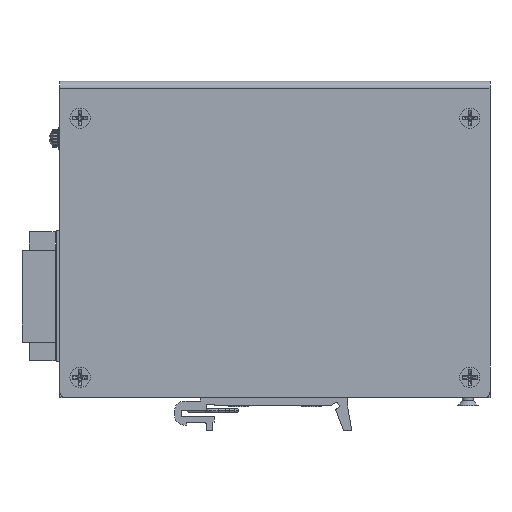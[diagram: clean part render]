
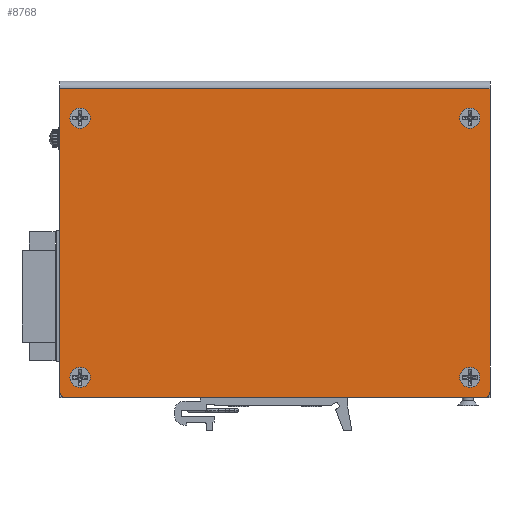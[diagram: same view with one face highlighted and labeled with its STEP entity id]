
A CAD part, front view. The second image highlights one B-rep face of the part: STEP entity #8768.
In plain terms, the highlighted planar face has unit normal (0, -1, 0) as drawn and (0, 0, 1) by its records, which use the part's own axes.
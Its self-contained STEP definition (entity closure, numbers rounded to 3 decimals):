
#6091=DIRECTION('',(0.,-1.,0.));
#6092=VECTOR('',#6091,82.5);
#6093=CARTESIAN_POINT('',(-58.5,-0.5,14.8));
#6094=LINE('',#6093,#6092);
#6712=DIRECTION('',(0.,-1.,0.));
#6713=VECTOR('',#6712,82.5);
#6714=CARTESIAN_POINT('',(58.5,-0.5,14.8));
#6715=LINE('',#6714,#6713);
#6719=CARTESIAN_POINT('',(57.,-83.,14.8));
#6720=DIRECTION('',(0.,0.,-1.));
#6721=DIRECTION('',(1.,0.,0.));
#6722=AXIS2_PLACEMENT_3D('',#6719,#6720,#6721);
#6727=CARTESIAN_POINT('',(-57.,-83.,14.8));
#6728=DIRECTION('',(0.,0.,-1.));
#6729=DIRECTION('',(0.,-1.,0.));
#6730=AXIS2_PLACEMENT_3D('',#6727,#6728,#6729);
#6735=CARTESIAN_POINT('',(-53.,-79.,14.8));
#6736=DIRECTION('',(0.,0.,1.));
#6737=DIRECTION('',(-1.,0.,0.));
#6738=AXIS2_PLACEMENT_3D('',#6735,#6736,#6737);
#6743=CARTESIAN_POINT('',(-53.,-79.,14.8));
#6744=DIRECTION('',(0.,0.,1.));
#6745=DIRECTION('',(0.,-1.,0.));
#6746=AXIS2_PLACEMENT_3D('',#6743,#6744,#6745);
#6751=CARTESIAN_POINT('',(-53.,-79.,14.8));
#6752=DIRECTION('',(0.,0.,1.));
#6753=DIRECTION('',(1.,0.,0.));
#6754=AXIS2_PLACEMENT_3D('',#6751,#6752,#6753);
#6759=CARTESIAN_POINT('',(-53.,-79.,14.8));
#6760=DIRECTION('',(0.,0.,1.));
#6761=DIRECTION('',(0.,1.,0.));
#6762=AXIS2_PLACEMENT_3D('',#6759,#6760,#6761);
#6767=CARTESIAN_POINT('',(53.,-8.5,14.8));
#6768=DIRECTION('',(0.,0.,1.));
#6769=DIRECTION('',(-1.,0.,0.));
#6770=AXIS2_PLACEMENT_3D('',#6767,#6768,#6769);
#6775=CARTESIAN_POINT('',(53.,-8.5,14.8));
#6776=DIRECTION('',(0.,0.,1.));
#6777=DIRECTION('',(0.,-1.,0.));
#6778=AXIS2_PLACEMENT_3D('',#6775,#6776,#6777);
#6783=CARTESIAN_POINT('',(53.,-8.5,14.8));
#6784=DIRECTION('',(0.,0.,1.));
#6785=DIRECTION('',(1.,0.,0.));
#6786=AXIS2_PLACEMENT_3D('',#6783,#6784,#6785);
#6791=CARTESIAN_POINT('',(53.,-8.5,14.8));
#6792=DIRECTION('',(0.,0.,1.));
#6793=DIRECTION('',(0.,1.,0.));
#6794=AXIS2_PLACEMENT_3D('',#6791,#6792,#6793);
#6799=CARTESIAN_POINT('',(-53.,-8.5,14.8));
#6800=DIRECTION('',(0.,0.,1.));
#6801=DIRECTION('',(-1.,0.,0.));
#6802=AXIS2_PLACEMENT_3D('',#6799,#6800,#6801);
#6807=CARTESIAN_POINT('',(-53.,-8.5,14.8));
#6808=DIRECTION('',(0.,0.,1.));
#6809=DIRECTION('',(0.,-1.,0.));
#6810=AXIS2_PLACEMENT_3D('',#6807,#6808,#6809);
#6815=CARTESIAN_POINT('',(-53.,-8.5,14.8));
#6816=DIRECTION('',(0.,0.,1.));
#6817=DIRECTION('',(1.,0.,0.));
#6818=AXIS2_PLACEMENT_3D('',#6815,#6816,#6817);
#6823=CARTESIAN_POINT('',(-53.,-8.5,14.8));
#6824=DIRECTION('',(0.,0.,1.));
#6825=DIRECTION('',(0.,1.,0.));
#6826=AXIS2_PLACEMENT_3D('',#6823,#6824,#6825);
#6831=CARTESIAN_POINT('',(53.,-79.,14.8));
#6832=DIRECTION('',(0.,0.,1.));
#6833=DIRECTION('',(-1.,0.,0.));
#6834=AXIS2_PLACEMENT_3D('',#6831,#6832,#6833);
#6839=CARTESIAN_POINT('',(53.,-79.,14.8));
#6840=DIRECTION('',(0.,0.,1.));
#6841=DIRECTION('',(0.,-1.,0.));
#6842=AXIS2_PLACEMENT_3D('',#6839,#6840,#6841);
#6847=CARTESIAN_POINT('',(53.,-79.,14.8));
#6848=DIRECTION('',(0.,0.,1.));
#6849=DIRECTION('',(1.,0.,0.));
#6850=AXIS2_PLACEMENT_3D('',#6847,#6848,#6849);
#6855=CARTESIAN_POINT('',(53.,-79.,14.8));
#6856=DIRECTION('',(0.,0.,1.));
#6857=DIRECTION('',(0.,1.,0.));
#6858=AXIS2_PLACEMENT_3D('',#6855,#6856,#6857);
#6877=DIRECTION('',(1.,0.,0.));
#6878=VECTOR('',#6877,114.);
#6879=CARTESIAN_POINT('',(-57.,-84.5,14.8));
#6880=LINE('',#6879,#6878);
#6884=DIRECTION('',(-1.,0.,0.));
#6885=VECTOR('',#6884,117.);
#6886=CARTESIAN_POINT('',(58.5,-0.5,14.8));
#6887=LINE('',#6886,#6885);
#8015=CARTESIAN_POINT('',(-58.5,-0.5,14.8));
#8016=VERTEX_POINT('',#8015);
#8017=CARTESIAN_POINT('',(-58.5,-83.,14.8));
#8018=VERTEX_POINT('',#8017);
#8167=CARTESIAN_POINT('',(58.5,-83.,14.8));
#8168=VERTEX_POINT('',#8167);
#8169=CARTESIAN_POINT('',(58.5,-0.5,14.8));
#8170=VERTEX_POINT('',#8169);
#8217=CARTESIAN_POINT('',(-53.,-81.65,14.8));
#8218=CARTESIAN_POINT('',(-50.35,-79.,14.8));
#8219=VERTEX_POINT('',#8217);
#8220=VERTEX_POINT('',#8218);
#8221=CARTESIAN_POINT('',(-55.65,-79.,14.8));
#8222=VERTEX_POINT('',#8221);
#8223=CARTESIAN_POINT('',(57.,-84.5,14.8));
#8224=VERTEX_POINT('',#8223);
#8225=CARTESIAN_POINT('',(-57.,-84.5,14.8));
#8226=VERTEX_POINT('',#8225);
#8227=CARTESIAN_POINT('',(-53.,-76.35,14.8));
#8228=VERTEX_POINT('',#8227);
#8229=CARTESIAN_POINT('',(53.,-11.15,14.8));
#8230=CARTESIAN_POINT('',(55.65,-8.5,14.8));
#8231=VERTEX_POINT('',#8229);
#8232=VERTEX_POINT('',#8230);
#8233=CARTESIAN_POINT('',(50.35,-8.5,14.8));
#8234=VERTEX_POINT('',#8233);
#8235=CARTESIAN_POINT('',(53.,-5.85,14.8));
#8236=VERTEX_POINT('',#8235);
#8237=CARTESIAN_POINT('',(-53.,-11.15,14.8));
#8238=CARTESIAN_POINT('',(-50.35,-8.5,14.8));
#8239=VERTEX_POINT('',#8237);
#8240=VERTEX_POINT('',#8238);
#8241=CARTESIAN_POINT('',(-55.65,-8.5,14.8));
#8242=VERTEX_POINT('',#8241);
#8243=CARTESIAN_POINT('',(-53.,-5.85,14.8));
#8244=VERTEX_POINT('',#8243);
#8245=CARTESIAN_POINT('',(53.,-81.65,14.8));
#8246=CARTESIAN_POINT('',(55.65,-79.,14.8));
#8247=VERTEX_POINT('',#8245);
#8248=VERTEX_POINT('',#8246);
#8249=CARTESIAN_POINT('',(50.35,-79.,14.8));
#8250=VERTEX_POINT('',#8249);
#8251=CARTESIAN_POINT('',(53.,-76.35,14.8));
#8252=VERTEX_POINT('',#8251);
#8712=CARTESIAN_POINT('',(-58.5,1.5,14.8));
#8713=DIRECTION('',(0.,0.,1.));
#8714=DIRECTION('',(-1.,0.,0.));
#8715=AXIS2_PLACEMENT_3D('',#8712,#8713,#8714);
#8716=PLANE('',#8715);
#8717=ORIENTED_EDGE('',*,*,#8578,.T.);
#8719=ORIENTED_EDGE('',*,*,#8718,.T.);
#8721=ORIENTED_EDGE('',*,*,#8720,.F.);
#8722=ORIENTED_EDGE('',*,*,#8703,.T.);
#8723=ORIENTED_EDGE('',*,*,#8393,.F.);
#8725=ORIENTED_EDGE('',*,*,#8724,.F.);
#8726=EDGE_LOOP('',(#8717,#8719,#8721,#8722,#8723,#8725));
#8727=FACE_OUTER_BOUND('',#8726,.F.);
#8729=ORIENTED_EDGE('',*,*,#8728,.T.);
#8731=ORIENTED_EDGE('',*,*,#8730,.T.);
#8733=ORIENTED_EDGE('',*,*,#8732,.T.);
#8735=ORIENTED_EDGE('',*,*,#8734,.T.);
#8736=EDGE_LOOP('',(#8729,#8731,#8733,#8735));
#8737=FACE_BOUND('',#8736,.F.);
#8739=ORIENTED_EDGE('',*,*,#8738,.T.);
#8741=ORIENTED_EDGE('',*,*,#8740,.T.);
#8743=ORIENTED_EDGE('',*,*,#8742,.T.);
#8745=ORIENTED_EDGE('',*,*,#8744,.T.);
#8746=EDGE_LOOP('',(#8739,#8741,#8743,#8745));
#8747=FACE_BOUND('',#8746,.F.);
#8749=ORIENTED_EDGE('',*,*,#8748,.T.);
#8751=ORIENTED_EDGE('',*,*,#8750,.T.);
#8753=ORIENTED_EDGE('',*,*,#8752,.T.);
#8755=ORIENTED_EDGE('',*,*,#8754,.T.);
#8756=EDGE_LOOP('',(#8749,#8751,#8753,#8755));
#8757=FACE_BOUND('',#8756,.F.);
#8759=ORIENTED_EDGE('',*,*,#8758,.T.);
#8761=ORIENTED_EDGE('',*,*,#8760,.T.);
#8763=ORIENTED_EDGE('',*,*,#8762,.T.);
#8765=ORIENTED_EDGE('',*,*,#8764,.T.);
#8766=EDGE_LOOP('',(#8759,#8761,#8763,#8765));
#8767=FACE_BOUND('',#8766,.F.);
#6723=CIRCLE('',#6722,1.5);
#6731=CIRCLE('',#6730,1.5);
#6739=CIRCLE('',#6738,2.65);
#6747=CIRCLE('',#6746,2.65);
#6755=CIRCLE('',#6754,2.65);
#6763=CIRCLE('',#6762,2.65);
#6771=CIRCLE('',#6770,2.65);
#6779=CIRCLE('',#6778,2.65);
#6787=CIRCLE('',#6786,2.65);
#6795=CIRCLE('',#6794,2.65);
#6803=CIRCLE('',#6802,2.65);
#6811=CIRCLE('',#6810,2.65);
#6819=CIRCLE('',#6818,2.65);
#6827=CIRCLE('',#6826,2.65);
#6835=CIRCLE('',#6834,2.65);
#6843=CIRCLE('',#6842,2.65);
#6851=CIRCLE('',#6850,2.65);
#6859=CIRCLE('',#6858,2.65);
#8393=EDGE_CURVE('',#8016,#8018,#6094,.T.);
#8578=EDGE_CURVE('',#8170,#8168,#6715,.T.);
#8703=EDGE_CURVE('',#8226,#8018,#6731,.T.);
#8718=EDGE_CURVE('',#8168,#8224,#6723,.T.);
#8720=EDGE_CURVE('',#8226,#8224,#6880,.T.);
#8724=EDGE_CURVE('',#8170,#8016,#6887,.T.);
#8728=EDGE_CURVE('',#8222,#8219,#6739,.T.);
#8730=EDGE_CURVE('',#8219,#8220,#6747,.T.);
#8732=EDGE_CURVE('',#8220,#8228,#6755,.T.);
#8734=EDGE_CURVE('',#8228,#8222,#6763,.T.);
#8738=EDGE_CURVE('',#8234,#8231,#6771,.T.);
#8740=EDGE_CURVE('',#8231,#8232,#6779,.T.);
#8742=EDGE_CURVE('',#8232,#8236,#6787,.T.);
#8744=EDGE_CURVE('',#8236,#8234,#6795,.T.);
#8748=EDGE_CURVE('',#8242,#8239,#6803,.T.);
#8750=EDGE_CURVE('',#8239,#8240,#6811,.T.);
#8752=EDGE_CURVE('',#8240,#8244,#6819,.T.);
#8754=EDGE_CURVE('',#8244,#8242,#6827,.T.);
#8758=EDGE_CURVE('',#8250,#8247,#6835,.T.);
#8760=EDGE_CURVE('',#8247,#8248,#6843,.T.);
#8762=EDGE_CURVE('',#8248,#8252,#6851,.T.);
#8764=EDGE_CURVE('',#8252,#8250,#6859,.T.);
#8768=ADVANCED_FACE('',(#8727,#8737,#8747,#8757,#8767),#8716,.T.);
